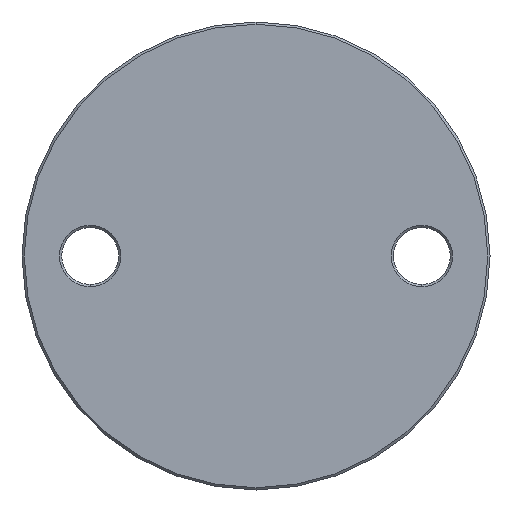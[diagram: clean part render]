
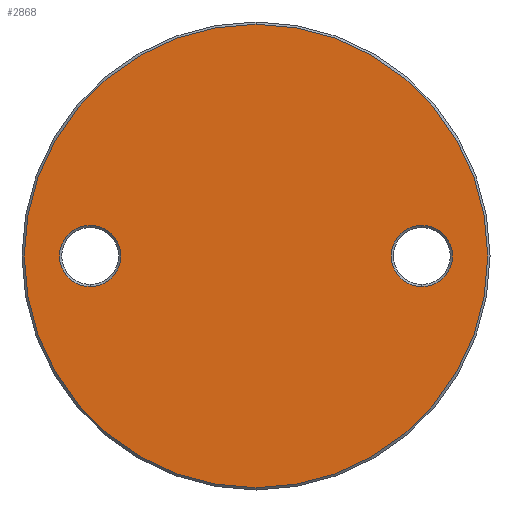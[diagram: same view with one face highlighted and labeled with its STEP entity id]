
A CAD part, front view. The second image highlights one B-rep face of the part: STEP entity #2868.
In plain terms, the highlighted planar face has unit normal (0, -1, 0).
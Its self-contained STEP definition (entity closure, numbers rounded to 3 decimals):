
#97 = CARTESIAN_POINT ( 'NONE',  ( 36.5, -3., 6.75 ) ) ;
#158 = CARTESIAN_POINT ( 'NONE',  ( 0., -3., 51. ) ) ;
#175 = EDGE_CURVE ( 'NONE', #668, #1620, #1239, .T. ) ;
#176 = DIRECTION ( 'NONE',  ( 0., -1., 0. ) ) ;
#186 = CIRCLE ( 'NONE', #3855, 6.75 ) ;
#262 = CIRCLE ( 'NONE', #4475, 6.75 ) ;
#319 = VERTEX_POINT ( 'NONE', #4198 ) ;
#342 = DIRECTION ( 'NONE',  ( 0., 0., -1. ) ) ;
#359 = CIRCLE ( 'NONE', #2819, 51. ) ;
#520 = DIRECTION ( 'NONE',  ( 0., 0., -1. ) ) ;
#536 = AXIS2_PLACEMENT_3D ( 'NONE', #1426, #2720, #520 ) ;
#582 = EDGE_CURVE ( 'NONE', #705, #319, #359, .T. ) ;
#668 = VERTEX_POINT ( 'NONE', #97 ) ;
#669 = AXIS2_PLACEMENT_3D ( 'NONE', #5412, #4590, #1960 ) ;
#705 = VERTEX_POINT ( 'NONE', #158 ) ;
#720 = AXIS2_PLACEMENT_3D ( 'NONE', #2729, #2692, #2676 ) ;
#774 = DIRECTION ( 'NONE',  ( 0., 1., 0. ) ) ;
#855 = EDGE_LOOP ( 'NONE', ( #3808, #1644 ) ) ;
#981 = DIRECTION ( 'NONE',  ( 0., 0., -1. ) ) ;
#1172 = DIRECTION ( 'NONE',  ( 0., 0., -1. ) ) ;
#1206 = DIRECTION ( 'NONE',  ( 0., 1., 0. ) ) ;
#1239 = CIRCLE ( 'NONE', #669, 6.75 ) ;
#1353 = CARTESIAN_POINT ( 'NONE',  ( 36.5, -3., -6.75 ) ) ;
#1356 = FACE_OUTER_BOUND ( 'NONE', #2184, .T. ) ;
#1426 = CARTESIAN_POINT ( 'NONE',  ( -36.5, -3., 0. ) ) ;
#1620 = VERTEX_POINT ( 'NONE', #1353 ) ;
#1624 = ORIENTED_EDGE ( 'NONE', *, *, #2950, .T. ) ;
#1644 = ORIENTED_EDGE ( 'NONE', *, *, #175, .T. ) ;
#1764 = CARTESIAN_POINT ( 'NONE',  ( -36.5, -3., -6.75 ) ) ;
#1904 = FACE_BOUND ( 'NONE', #855, .T. ) ;
#1960 = DIRECTION ( 'NONE',  ( 0., 0., -1. ) ) ;
#1976 = ORIENTED_EDGE ( 'NONE', *, *, #2152, .T. ) ;
#2113 = CARTESIAN_POINT ( 'NONE',  ( 36.5, -3., 0. ) ) ;
#2152 = EDGE_CURVE ( 'NONE', #3939, #3754, #2726, .T. ) ;
#2184 = EDGE_LOOP ( 'NONE', ( #4348, #5354 ) ) ;
#2286 = CARTESIAN_POINT ( 'NONE',  ( 0., -3., 0. ) ) ;
#2371 = CARTESIAN_POINT ( 'NONE',  ( 0., -3., 51.5 ) ) ;
#2541 = EDGE_LOOP ( 'NONE', ( #1624, #1976 ) ) ;
#2676 = DIRECTION ( 'NONE',  ( 0., 0., -1. ) ) ;
#2692 = DIRECTION ( 'NONE',  ( 0., -1., 0. ) ) ;
#2720 = DIRECTION ( 'NONE',  ( 0., 1., 0. ) ) ;
#2721 = FACE_BOUND ( 'NONE', #2541, .T. ) ;
#2726 = CIRCLE ( 'NONE', #536, 6.75 ) ;
#2729 = CARTESIAN_POINT ( 'NONE',  ( 0., -3., 0. ) ) ;
#2819 = AXIS2_PLACEMENT_3D ( 'NONE', #2286, #176, #981 ) ;
#2868 = ADVANCED_FACE ( 'NONE', ( #1904, #2721, #1356 ), #3689, .T. ) ;
#2950 = EDGE_CURVE ( 'NONE', #3754, #3939, #262, .T. ) ;
#2967 = CIRCLE ( 'NONE', #720, 51. ) ;
#3194 = CARTESIAN_POINT ( 'NONE',  ( -36.5, -3., 6.75 ) ) ;
#3601 = EDGE_CURVE ( 'NONE', #1620, #668, #186, .T. ) ;
#3671 = DIRECTION ( 'NONE',  ( 0., 0., -1. ) ) ;
#3689 = PLANE ( 'NONE',  #4967 ) ;
#3754 = VERTEX_POINT ( 'NONE', #1764 ) ;
#3793 = EDGE_CURVE ( 'NONE', #319, #705, #2967, .T. ) ;
#3808 = ORIENTED_EDGE ( 'NONE', *, *, #3601, .T. ) ;
#3855 = AXIS2_PLACEMENT_3D ( 'NONE', #2113, #1206, #1172 ) ;
#3939 = VERTEX_POINT ( 'NONE', #3194 ) ;
#4198 = CARTESIAN_POINT ( 'NONE',  ( 0., -3., -51. ) ) ;
#4226 = CARTESIAN_POINT ( 'NONE',  ( -36.5, -3., 0. ) ) ;
#4348 = ORIENTED_EDGE ( 'NONE', *, *, #582, .T. ) ;
#4475 = AXIS2_PLACEMENT_3D ( 'NONE', #4226, #774, #342 ) ;
#4590 = DIRECTION ( 'NONE',  ( 0., 1., 0. ) ) ;
#4967 = AXIS2_PLACEMENT_3D ( 'NONE', #2371, #5433, #3671 ) ;
#5354 = ORIENTED_EDGE ( 'NONE', *, *, #3793, .T. ) ;
#5412 = CARTESIAN_POINT ( 'NONE',  ( 36.5, -3., 0. ) ) ;
#5433 = DIRECTION ( 'NONE',  ( 0., -1., 0. ) ) ;
